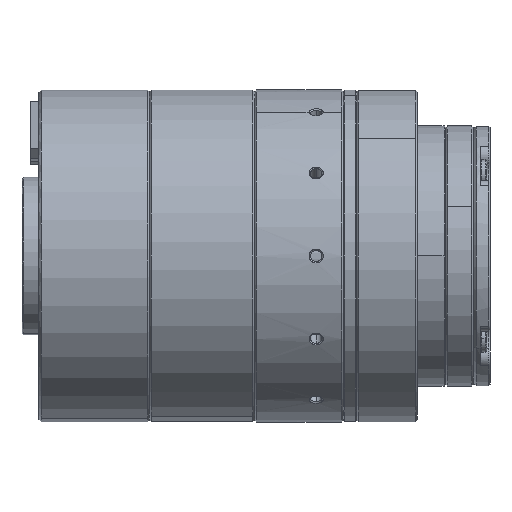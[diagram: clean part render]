
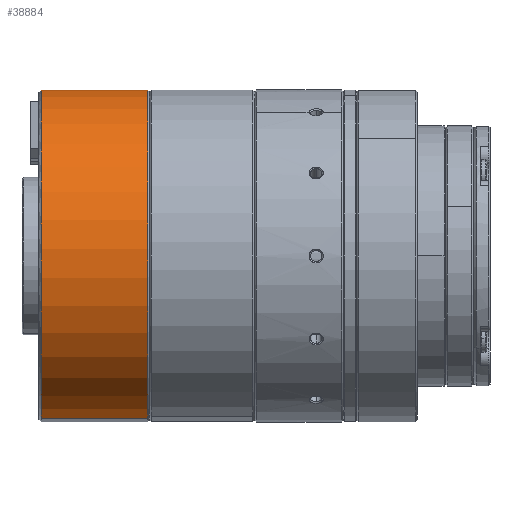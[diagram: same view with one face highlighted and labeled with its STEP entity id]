
A CAD part, front view. The second image highlights one B-rep face of the part: STEP entity #38884.
In plain terms, the highlighted cylindrical face has radius 30 mm (diameter 60 mm), a partial arc.
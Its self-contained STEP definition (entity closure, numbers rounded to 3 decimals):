
#364 = AXIS2_PLACEMENT_3D ( 'NONE', #11117, #8355, #35584 ) ;
#749 = CARTESIAN_POINT ( 'NONE',  ( -48.3, 0., 0. ) ) ;
#1178 = LINE ( 'NONE', #13311, #26778 ) ;
#3989 = CARTESIAN_POINT ( 'NONE',  ( -48.3, -6.517, -29.284 ) ) ;
#7815 = CIRCLE ( 'NONE', #8464, 30. ) ;
#7951 = FACE_OUTER_BOUND ( 'NONE', #38122, .T. ) ;
#8272 = EDGE_CURVE ( 'NONE', #27779, #19376, #7815, .T. ) ;
#8355 = DIRECTION ( 'NONE',  ( -1., 0., 0. ) ) ;
#8464 = AXIS2_PLACEMENT_3D ( 'NONE', #749, #22768, #35284 ) ;
#10320 = DIRECTION ( 'NONE',  ( -1., 0., 0. ) ) ;
#10743 = DIRECTION ( 'NONE',  ( 1., 0., 0. ) ) ;
#11117 = CARTESIAN_POINT ( 'NONE',  ( -66.5, 0., 0. ) ) ;
#12024 = EDGE_CURVE ( 'NONE', #27779, #28249, #30548, .T. ) ;
#13212 = CARTESIAN_POINT ( 'NONE',  ( -67.5, 6.517, 29.284 ) ) ;
#13311 = CARTESIAN_POINT ( 'NONE',  ( -66.5, 6.517, 29.284 ) ) ;
#13448 = VECTOR ( 'NONE', #38913, 1000. ) ;
#13841 = CIRCLE ( 'NONE', #20818, 30. ) ;
#19376 = VERTEX_POINT ( 'NONE', #35650 ) ;
#20818 = AXIS2_PLACEMENT_3D ( 'NONE', #38005, #10743, #22871 ) ;
#21133 = ORIENTED_EDGE ( 'NONE', *, *, #8272, .T. ) ;
#21349 = CARTESIAN_POINT ( 'NONE',  ( -67.5, -6.517, -29.284 ) ) ;
#22768 = DIRECTION ( 'NONE',  ( -1., 0., 0. ) ) ;
#22871 = DIRECTION ( 'NONE',  ( 0., 0.217, 0.976 ) ) ;
#23658 = ORIENTED_EDGE ( 'NONE', *, *, #37883, .T. ) ;
#26778 = VECTOR ( 'NONE', #10320, 1000. ) ;
#27779 = VERTEX_POINT ( 'NONE', #3989 ) ;
#28249 = VERTEX_POINT ( 'NONE', #21349 ) ;
#30548 = LINE ( 'NONE', #36130, #13448 ) ;
#30744 = EDGE_CURVE ( 'NONE', #19376, #32697, #1178, .T. ) ;
#32225 = CYLINDRICAL_SURFACE ( 'NONE', #364, 30. ) ;
#32614 = ORIENTED_EDGE ( 'NONE', *, *, #12024, .F. ) ;
#32697 = VERTEX_POINT ( 'NONE', #13212 ) ;
#34206 = ORIENTED_EDGE ( 'NONE', *, *, #30744, .T. ) ;
#35284 = DIRECTION ( 'NONE',  ( 0., 0.217, 0.976 ) ) ;
#35584 = DIRECTION ( 'NONE',  ( 0., -0.217, -0.976 ) ) ;
#35650 = CARTESIAN_POINT ( 'NONE',  ( -48.3, 6.517, 29.284 ) ) ;
#36130 = CARTESIAN_POINT ( 'NONE',  ( -66.5, -6.517, -29.284 ) ) ;
#37883 = EDGE_CURVE ( 'NONE', #32697, #28249, #13841, .T. ) ;
#38005 = CARTESIAN_POINT ( 'NONE',  ( -67.5, 0., 0. ) ) ;
#38122 = EDGE_LOOP ( 'NONE', ( #21133, #34206, #23658, #32614 ) ) ;
#38884 = ADVANCED_FACE ( 'NONE', ( #7951 ), #32225, .T. ) ;
#38913 = DIRECTION ( 'NONE',  ( -1., 0., 0. ) ) ;
